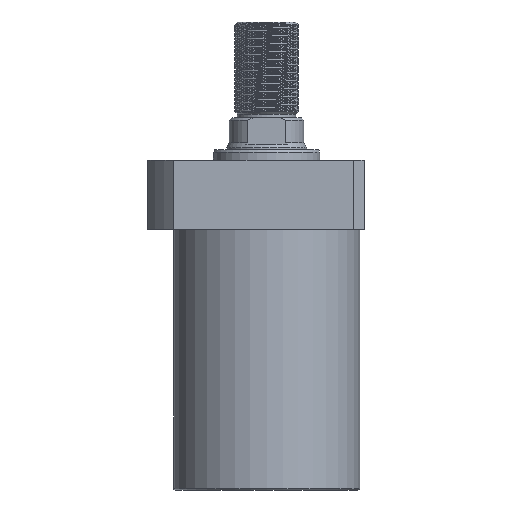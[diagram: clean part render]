
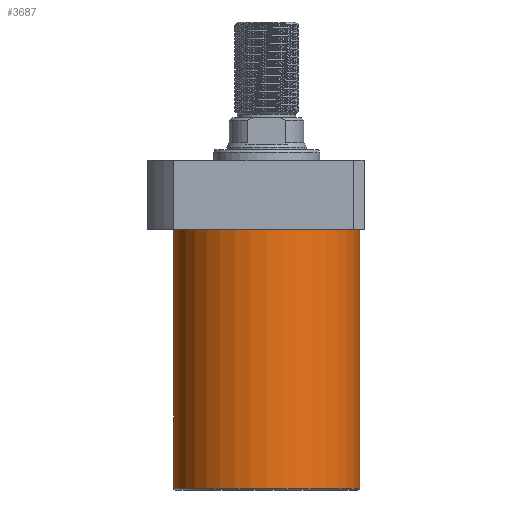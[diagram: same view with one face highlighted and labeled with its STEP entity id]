
A CAD part, front view. The second image highlights one B-rep face of the part: STEP entity #3687.
In plain terms, the highlighted cylindrical face has radius 52.5 mm (diameter 105 mm), a partial arc.
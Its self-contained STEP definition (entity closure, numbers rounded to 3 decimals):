
#166 = DIRECTION ( 'NONE',  ( 0., 0., 1. ) ) ;
#362 = EDGE_CURVE ( 'NONE', #7819, #772, #549, .T. ) ;
#549 = LINE ( 'NONE', #5592, #7164 ) ;
#649 = CARTESIAN_POINT ( 'NONE',  ( -52.5, 0., -165.5 ) ) ;
#722 = FACE_OUTER_BOUND ( 'NONE', #8270, .T. ) ;
#772 = VERTEX_POINT ( 'NONE', #4189 ) ;
#978 = DIRECTION ( 'NONE',  ( 0., 0., 1. ) ) ;
#1077 = EDGE_CURVE ( 'NONE', #1785, #772, #2331, .T. ) ;
#1785 = VERTEX_POINT ( 'NONE', #5176 ) ;
#2078 = CARTESIAN_POINT ( 'NONE',  ( 52.5, 0., -166.5 ) ) ;
#2202 = AXIS2_PLACEMENT_3D ( 'NONE', #5927, #166, #6563 ) ;
#2331 = CIRCLE ( 'NONE', #5783, 52.5 ) ;
#2385 = ORIENTED_EDGE ( 'NONE', *, *, #7988, .T. ) ;
#2511 = VERTEX_POINT ( 'NONE', #5172 ) ;
#2625 = LINE ( 'NONE', #2078, #4122 ) ;
#2735 = DIRECTION ( 'NONE',  ( 0., 0., 1. ) ) ;
#3183 = ORIENTED_EDGE ( 'NONE', *, *, #1077, .T. ) ;
#3208 = CYLINDRICAL_SURFACE ( 'NONE', #2202, 52.5 ) ;
#3645 = DIRECTION ( 'NONE',  ( 1., 0., 0. ) ) ;
#3670 = DIRECTION ( 'NONE',  ( 0., 0., -1. ) ) ;
#3687 = ADVANCED_FACE ( 'NONE', ( #722 ), #3208, .T. ) ;
#3855 = ORIENTED_EDGE ( 'NONE', *, *, #362, .F. ) ;
#3865 = EDGE_CURVE ( 'NONE', #7819, #2511, #6224, .T. ) ;
#3985 = CARTESIAN_POINT ( 'NONE',  ( 0., 0., -19.5 ) ) ;
#4122 = VECTOR ( 'NONE', #2735, 1000. ) ;
#4189 = CARTESIAN_POINT ( 'NONE',  ( -52.5, 0., -19.5 ) ) ;
#4779 = AXIS2_PLACEMENT_3D ( 'NONE', #4800, #978, #5454 ) ;
#4800 = CARTESIAN_POINT ( 'NONE',  ( 0., 0., -165.5 ) ) ;
#5172 = CARTESIAN_POINT ( 'NONE',  ( 52.5, 0., -165.5 ) ) ;
#5176 = CARTESIAN_POINT ( 'NONE',  ( 52.5, 0., -19.5 ) ) ;
#5379 = ORIENTED_EDGE ( 'NONE', *, *, #3865, .T. ) ;
#5454 = DIRECTION ( 'NONE',  ( -1., 0., 0. ) ) ;
#5592 = CARTESIAN_POINT ( 'NONE',  ( -52.5, 0., -166.5 ) ) ;
#5783 = AXIS2_PLACEMENT_3D ( 'NONE', #3985, #3670, #3645 ) ;
#5927 = CARTESIAN_POINT ( 'NONE',  ( 0., 0., -166.5 ) ) ;
#6005 = DIRECTION ( 'NONE',  ( 0., 0., 1. ) ) ;
#6224 = CIRCLE ( 'NONE', #4779, 52.5 ) ;
#6563 = DIRECTION ( 'NONE',  ( 1., 0., 0. ) ) ;
#7164 = VECTOR ( 'NONE', #6005, 1000. ) ;
#7819 = VERTEX_POINT ( 'NONE', #649 ) ;
#7988 = EDGE_CURVE ( 'NONE', #2511, #1785, #2625, .T. ) ;
#8270 = EDGE_LOOP ( 'NONE', ( #3855, #5379, #2385, #3183 ) ) ;
